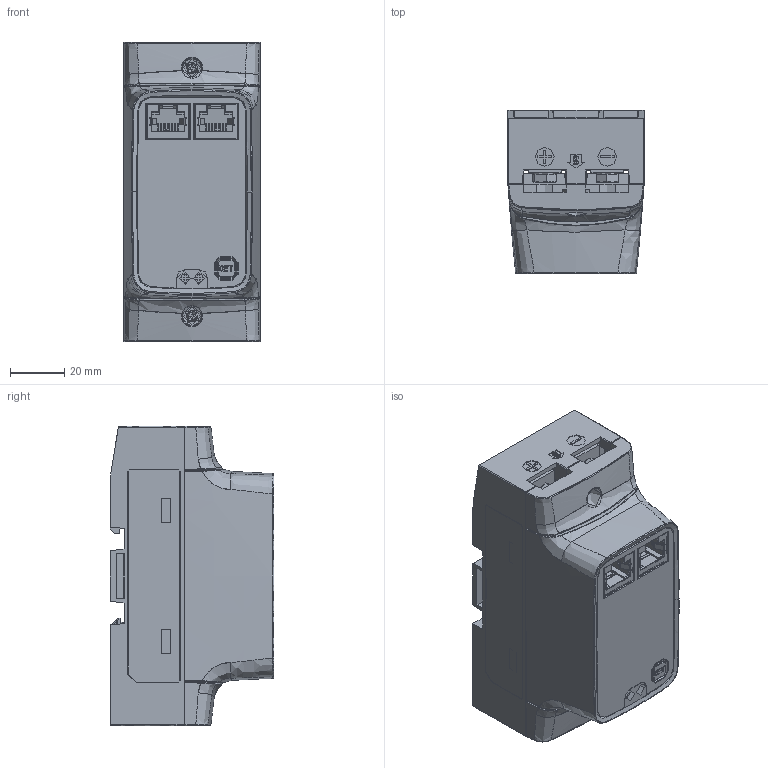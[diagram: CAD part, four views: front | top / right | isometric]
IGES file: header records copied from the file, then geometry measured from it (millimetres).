
Global section: file name: \\10.10.10.23\16_; native system: Rhinoceros ( May 22 2017 ); preprocessor: Trout Lake IGES 012 May 22 2017; date: 210924.020746; units: millimetre
Bounding box: 50 x 60.01 x 110 mm (x, y, z)
Surface area: 108915.9 mm2 (no closed solid volume)
Topology: 0 solids, 0 shells, 3416 faces, 24054 edges, 24024 vertices
Faces by surface type: bspline 3416
